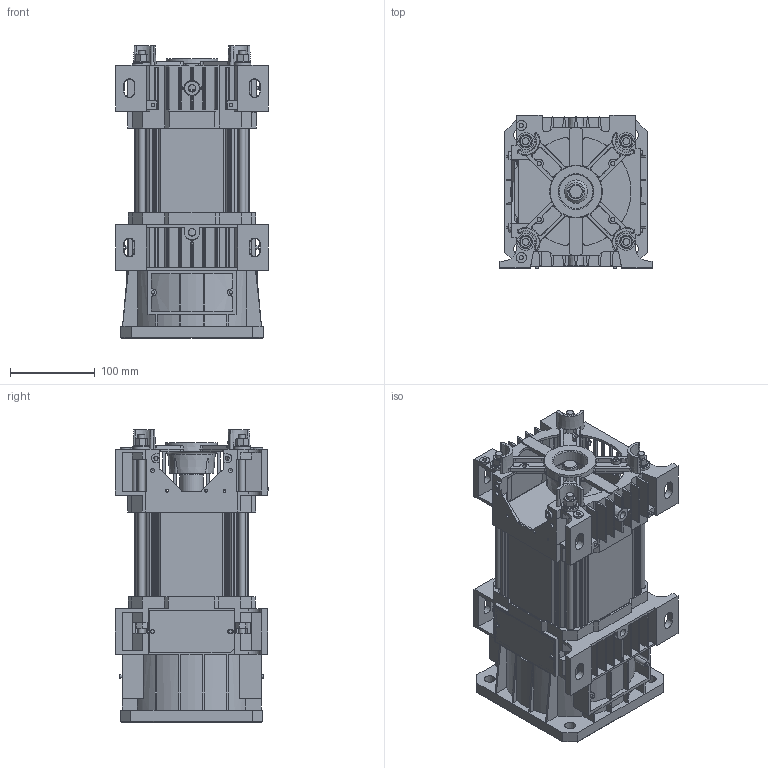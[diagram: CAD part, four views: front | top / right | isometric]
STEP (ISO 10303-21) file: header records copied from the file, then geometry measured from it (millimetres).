
FILE_DESCRIPTION(/* description */ ('Motore Tipo V34 Fl.155 F19-H110 SI Volano NO Piedi'),/* implementation_level */ '2;1');
FILE_NAME(/* name */ 'Y:\ServerTecnico\Mockup Motori x Sito Elmo\Mockup Tipo V34 Size 3 FL155 F19-H110 SI Volano.stp',/* time_stamp */ '2016-10-07T15:48:20+02:00',/* author */ ('aparmini'),/* organization */ (''),/* preprocessor_version */ 'ST-DEVELOPER v16.5',/* originating_system */ 'Autodesk Inventor 2017',/* authorisation */ '');
FILE_SCHEMA (('AUTOMOTIVE_DESIGN { 1 0 10303 214 3 1 1 }'));
Length unit declared in the file: millimetre
Products named in the file (8): Mockup Tipo V34 Size 3 FL155 F19-H110 SI Volano; Mockup CP3XD040N; Mockup CA3VD155N; Mockup Statore Size 3 - F19-H110 SI Volano; TGS10; TI08ML235; UNI 5587 - M8; DIN 125-2 - B 8,4
Assembly tree (20 placements, depth 2):
  Mockup Tipo V34 Size 3 FL155 F19-H110 SI Volano
    Mockup CP3XD040N
    Mockup CA3VD155N
    Mockup Statore Size 3 - F19-H110 SI Volano
    TGS10
    UNI 5587 - M8  x8
    TI08ML235  x4
    DIN 125-2 - B 8,4  x4
Bounding box: 180 x 181 x 345 mm (x, y, z)
Volume: 3483318.3 mm3; surface area: 657978.1 mm2
Topology: 20 solids, 20 shells, 1819 faces, 5040 edges, 3287 vertices
Faces by surface type: plane 1062, cone 378, cylinder 331, bspline 38, torus 10
Full cylindrical faces by diameter (mm): 3.2 x3, 4 x12, 4.917 x4, 5 x2, 6.647 x8, 8 x4, 8.4 x4, 12 x2, 16 x4, 17 x1, 19 x1, 20 x4, 21 x1, 27.5 x1, 30 x1, 31 x1, 32.5 x1, 40 x2, 40.1 x1, 42.5 x1, 46 x1, 72 x1, 145 x1, 153 x1
Entity records: 54689 total; most frequent: CARTESIAN_POINT 11163, ORIENTED_EDGE 9092, DIRECTION 9084, EDGE_CURVE 4546, AXIS2_PLACEMENT_3D 3086, VERTEX_POINT 3045, LINE 2912, VECTOR 2912
